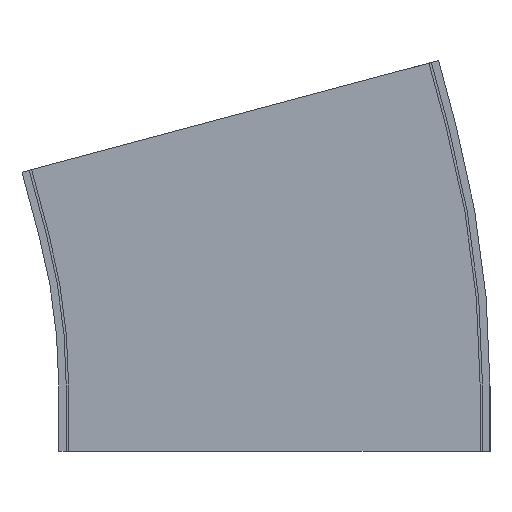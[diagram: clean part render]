
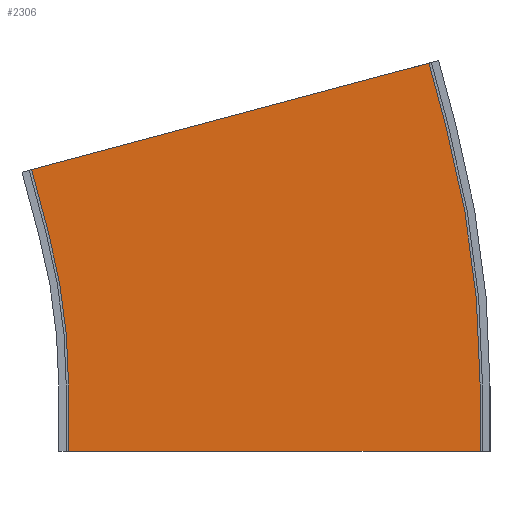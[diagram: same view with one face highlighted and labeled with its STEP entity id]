
A CAD part, front view. The second image highlights one B-rep face of the part: STEP entity #2306.
In plain terms, the highlighted planar face has unit normal (0, -1, 0).
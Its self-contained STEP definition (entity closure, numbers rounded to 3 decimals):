
#78 = ORIENTED_EDGE ( 'NONE', *, *, #922, .T. ) ;
#127 = CARTESIAN_POINT ( 'NONE',  ( 445.13, -68.25, 173.624 ) ) ;
#278 = ORIENTED_EDGE ( 'NONE', *, *, #1771, .T. ) ;
#339 = CARTESIAN_POINT ( 'NONE',  ( -13.588, -68.25, 50.711 ) ) ;
#354 = VERTEX_POINT ( 'NONE', #2482 ) ;
#504 = CARTESIAN_POINT ( 'NONE',  ( 458.718, -68.25, 122.913 ) ) ;
#514 = CIRCLE ( 'NONE', #1344, 474.9 ) ;
#568 = CARTESIAN_POINT ( 'NONE',  ( 805.1, -68.25, -52.5 ) ) ;
#574 = EDGE_CURVE ( 'NONE', #1339, #1327, #1067, .T. ) ;
#576 = AXIS2_PLACEMENT_3D ( 'NONE', #1919, #2287, #1754 ) ;
#578 = DIRECTION ( 'NONE',  ( 0.259, 0., -0.966 ) ) ;
#580 = ORIENTED_EDGE ( 'NONE', *, *, #574, .F. ) ;
#647 = VECTOR ( 'NONE', #2244, 1000. ) ;
#689 = DIRECTION ( 'NONE',  ( 0., 0., 1. ) ) ;
#691 = DIRECTION ( 'NONE',  ( 0., 1., 0. ) ) ;
#717 = VERTEX_POINT ( 'NONE', #1064 ) ;
#768 = ORIENTED_EDGE ( 'NONE', *, *, #1802, .F. ) ;
#774 = EDGE_LOOP ( 'NONE', ( #989, #935, #768, #78, #1346, #580, #1301, #278 ) ) ;
#801 = VERTEX_POINT ( 'NONE', #504 ) ;
#816 = CARTESIAN_POINT ( 'NONE',  ( 0., -68.25, -52.5 ) ) ;
#846 = DIRECTION ( 'NONE',  ( -1., 0., 0. ) ) ;
#913 = VECTOR ( 'NONE', #1670, 1000. ) ;
#915 = CIRCLE ( 'NONE', #576, 805.1 ) ;
#922 = EDGE_CURVE ( 'NONE', #1692, #1323, #1603, .T. ) ;
#935 = ORIENTED_EDGE ( 'NONE', *, *, #1315, .F. ) ;
#981 = AXIS2_PLACEMENT_3D ( 'NONE', #1759, #1351, #1954 ) ;
#989 = ORIENTED_EDGE ( 'NONE', *, *, #1107, .T. ) ;
#1057 = LINE ( 'NONE', #339, #913 ) ;
#1064 = CARTESIAN_POINT ( 'NONE',  ( 474.9, -68.25, 0. ) ) ;
#1067 = LINE ( 'NONE', #1760, #1638 ) ;
#1107 = EDGE_CURVE ( 'NONE', #801, #717, #514, .T. ) ;
#1156 = VERTEX_POINT ( 'NONE', #127 ) ;
#1254 = DIRECTION ( 'NONE',  ( -1., 0., 0. ) ) ;
#1263 = CARTESIAN_POINT ( 'NONE',  ( 0., -68.25, 0. ) ) ;
#1301 = ORIENTED_EDGE ( 'NONE', *, *, #1940, .F. ) ;
#1315 = EDGE_CURVE ( 'NONE', #354, #717, #2385, .T. ) ;
#1323 = VERTEX_POINT ( 'NONE', #1861 ) ;
#1327 = VERTEX_POINT ( 'NONE', #2029 ) ;
#1339 = VERTEX_POINT ( 'NONE', #1870 ) ;
#1344 = AXIS2_PLACEMENT_3D ( 'NONE', #1263, #691, #1254 ) ;
#1346 = ORIENTED_EDGE ( 'NONE', *, *, #1661, .F. ) ;
#1351 = DIRECTION ( 'NONE',  ( 0., 1., 0. ) ) ;
#1536 = CARTESIAN_POINT ( 'NONE',  ( 445.13, -68.25, 173.624 ) ) ;
#1565 = PLANE ( 'NONE',  #981 ) ;
#1603 = LINE ( 'NONE', #1871, #647 ) ;
#1638 = VECTOR ( 'NONE', #2357, 1000. ) ;
#1661 = EDGE_CURVE ( 'NONE', #1327, #1323, #915, .T. ) ;
#1666 = FACE_OUTER_BOUND ( 'NONE', #774, .T. ) ;
#1668 = CARTESIAN_POINT ( 'NONE',  ( 474.9, -68.25, -52.5 ) ) ;
#1670 = DIRECTION ( 'NONE',  ( 0.966, 0., 0.259 ) ) ;
#1672 = LINE ( 'NONE', #1536, #2235 ) ;
#1692 = VERTEX_POINT ( 'NONE', #568 ) ;
#1754 = DIRECTION ( 'NONE',  ( -1., 0., 0. ) ) ;
#1759 = CARTESIAN_POINT ( 'NONE',  ( 458.718, -68.25, 122.913 ) ) ;
#1760 = CARTESIAN_POINT ( 'NONE',  ( 764.079, -68.25, 259.086 ) ) ;
#1771 = EDGE_CURVE ( 'NONE', #1156, #801, #1672, .T. ) ;
#1802 = EDGE_CURVE ( 'NONE', #1692, #354, #1941, .T. ) ;
#1861 = CARTESIAN_POINT ( 'NONE',  ( 805.1, -68.25, 0. ) ) ;
#1870 = CARTESIAN_POINT ( 'NONE',  ( 764.079, -68.25, 259.086 ) ) ;
#1871 = CARTESIAN_POINT ( 'NONE',  ( 805.1, -68.25, -52.5 ) ) ;
#1919 = CARTESIAN_POINT ( 'NONE',  ( 0., -68.25, 0. ) ) ;
#1940 = EDGE_CURVE ( 'NONE', #1156, #1339, #1057, .T. ) ;
#1941 = LINE ( 'NONE', #816, #2383 ) ;
#1954 = DIRECTION ( 'NONE',  ( -1., 0., 0. ) ) ;
#2029 = CARTESIAN_POINT ( 'NONE',  ( 777.667, -68.25, 208.375 ) ) ;
#2235 = VECTOR ( 'NONE', #578, 1000. ) ;
#2244 = DIRECTION ( 'NONE',  ( 0., 0., 1. ) ) ;
#2287 = DIRECTION ( 'NONE',  ( 0., 1., 0. ) ) ;
#2306 = ADVANCED_FACE ( 'NONE', ( #1666 ), #1565, .F. ) ;
#2319 = VECTOR ( 'NONE', #689, 1000. ) ;
#2357 = DIRECTION ( 'NONE',  ( 0.259, 0., -0.966 ) ) ;
#2383 = VECTOR ( 'NONE', #846, 1000. ) ;
#2385 = LINE ( 'NONE', #1668, #2319 ) ;
#2482 = CARTESIAN_POINT ( 'NONE',  ( 474.9, -68.25, -52.5 ) ) ;
